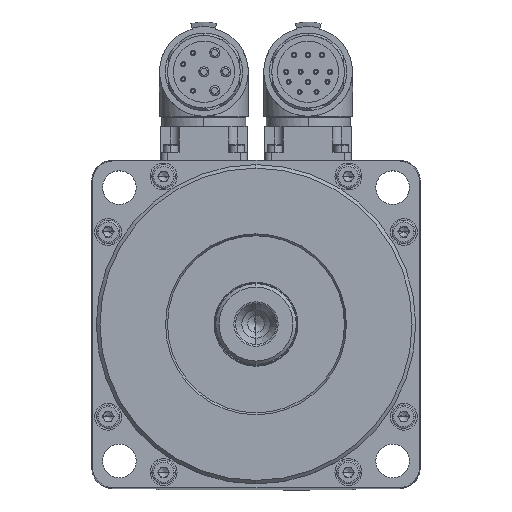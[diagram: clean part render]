
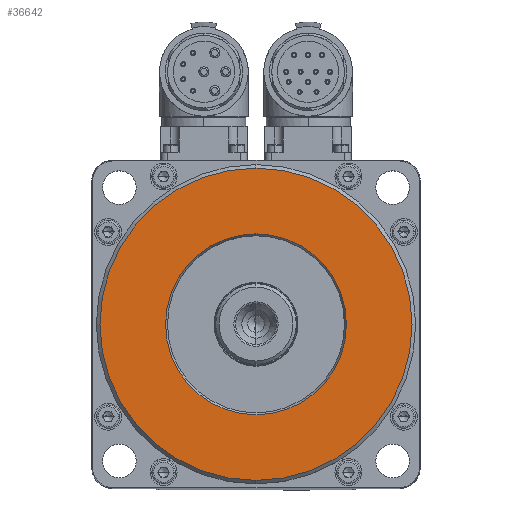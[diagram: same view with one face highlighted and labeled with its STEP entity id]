
A CAD part, top view. The second image highlights one B-rep face of the part: STEP entity #36642.
In plain terms, the highlighted planar face has unit normal (0, 0, 1).
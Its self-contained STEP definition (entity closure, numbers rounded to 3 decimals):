
#2815 = PLANE ( 'NONE',  #60493 ) ;
#3786 = EDGE_CURVE ( 'NONE', #7275, #39374, #27873, .T. ) ;
#5177 = CIRCLE ( 'NONE', #32247, 26.908 ) ;
#7275 = VERTEX_POINT ( 'NONE', #19920 ) ;
#8432 = DIRECTION ( 'NONE',  ( 0., 0., -1. ) ) ;
#8890 = CARTESIAN_POINT ( 'NONE',  ( 0., 26.908, 75.864 ) ) ;
#9873 = EDGE_CURVE ( 'NONE', #39374, #7275, #33643, .T. ) ;
#11348 = ORIENTED_EDGE ( 'NONE', *, *, #14428, .T. ) ;
#11575 = ORIENTED_EDGE ( 'NONE', *, *, #3786, .T. ) ;
#13223 = CARTESIAN_POINT ( 'NONE',  ( 0., 0., 75.864 ) ) ;
#14428 = EDGE_CURVE ( 'NONE', #54148, #20110, #5177, .T. ) ;
#16868 = CARTESIAN_POINT ( 'NONE',  ( 0., -26.908, 75.864 ) ) ;
#18629 = DIRECTION ( 'NONE',  ( 0., 1., 0. ) ) ;
#18639 = EDGE_LOOP ( 'NONE', ( #40064, #11348 ) ) ;
#19920 = CARTESIAN_POINT ( 'NONE',  ( 0., -46.433, 75.864 ) ) ;
#20110 = VERTEX_POINT ( 'NONE', #16868 ) ;
#21155 = FACE_BOUND ( 'NONE', #18639, .T. ) ;
#23829 = AXIS2_PLACEMENT_3D ( 'NONE', #31795, #55726, #56164 ) ;
#27506 = CARTESIAN_POINT ( 'NONE',  ( 0., 0., 75.864 ) ) ;
#27873 = CIRCLE ( 'NONE', #28141, 46.433 ) ;
#28141 = AXIS2_PLACEMENT_3D ( 'NONE', #36315, #56773, #56116 ) ;
#30100 = DIRECTION ( 'NONE',  ( 0., 1., 0. ) ) ;
#31795 = CARTESIAN_POINT ( 'NONE',  ( 0., 0., 75.864 ) ) ;
#32082 = DIRECTION ( 'NONE',  ( 0., 1., 0. ) ) ;
#32247 = AXIS2_PLACEMENT_3D ( 'NONE', #49675, #34662, #30100 ) ;
#33060 = CARTESIAN_POINT ( 'NONE',  ( 0., 46.433, 75.864 ) ) ;
#33643 = CIRCLE ( 'NONE', #58451, 46.433 ) ;
#34071 = CIRCLE ( 'NONE', #23829, 26.908 ) ;
#34662 = DIRECTION ( 'NONE',  ( 0., 0., -1. ) ) ;
#36315 = CARTESIAN_POINT ( 'NONE',  ( 0., 0., 75.864 ) ) ;
#36642 = ADVANCED_FACE ( 'NONE', ( #60892, #21155 ), #2815, .F. ) ;
#39374 = VERTEX_POINT ( 'NONE', #33060 ) ;
#40064 = ORIENTED_EDGE ( 'NONE', *, *, #64237, .T. ) ;
#41501 = ORIENTED_EDGE ( 'NONE', *, *, #9873, .T. ) ;
#42870 = EDGE_LOOP ( 'NONE', ( #41501, #11575 ) ) ;
#49675 = CARTESIAN_POINT ( 'NONE',  ( 0., 0., 75.864 ) ) ;
#54148 = VERTEX_POINT ( 'NONE', #8890 ) ;
#55726 = DIRECTION ( 'NONE',  ( 0., 0., -1. ) ) ;
#56116 = DIRECTION ( 'NONE',  ( 0., 1., 0. ) ) ;
#56164 = DIRECTION ( 'NONE',  ( 0., 1., 0. ) ) ;
#56773 = DIRECTION ( 'NONE',  ( 0., 0., 1. ) ) ;
#58451 = AXIS2_PLACEMENT_3D ( 'NONE', #27506, #62378, #32082 ) ;
#60493 = AXIS2_PLACEMENT_3D ( 'NONE', #13223, #8432, #18629 ) ;
#60892 = FACE_OUTER_BOUND ( 'NONE', #42870, .T. ) ;
#62378 = DIRECTION ( 'NONE',  ( 0., 0., 1. ) ) ;
#64237 = EDGE_CURVE ( 'NONE', #20110, #54148, #34071, .T. ) ;
